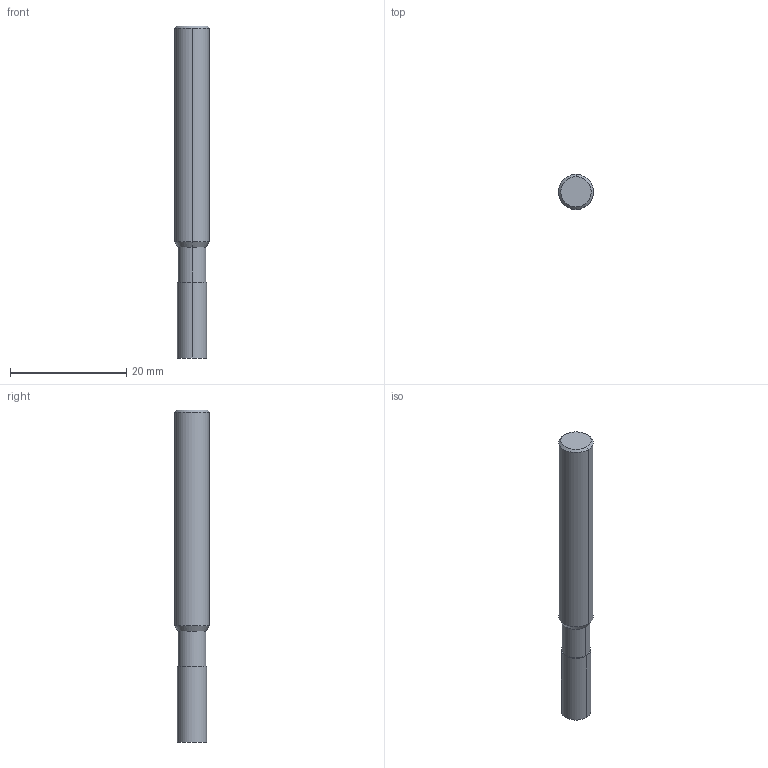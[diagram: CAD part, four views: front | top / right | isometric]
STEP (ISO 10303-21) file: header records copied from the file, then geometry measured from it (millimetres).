
FILE_DESCRIPTION((''),'2;1');
FILE_NAME('DIN4003_82_HEURO','2016-06-28T',('moesset'),(''),'PRO/ENGINEER BY PARAMETRIC TECHNOLOGY CORPORATION, 2015280','PRO/ENGINEER BY PARAMETRIC TECHNOLOGY CORPORATION, 2015280','');
FILE_SCHEMA(('AUTOMOTIVE_DESIGN { 1 0 10303 214 1 1 1 1 }'));
Length unit declared in the file: millimetre
Products named in the file (1): DIN4003_82_HEURO
Bounding box: 6 x 6 x 57 mm (x, y, z)
Volume: 1431.5 mm3; surface area: 1056.7 mm2
Topology: 1 solids, 1 shells, 13 faces, 26 edges, 17 vertices
Faces by surface type: bspline 13
Entity records: 750 total; most frequent: CARTESIAN_POINT 251, DIRECTION 69, ORIENTED_EDGE 48, AXIS2_PLACEMENT_3D 26, EDGE_CURVE 24, PRESENTATION_STYLE_ASSIGNMENT 23, STYLED_ITEM 23, VECTOR 17
